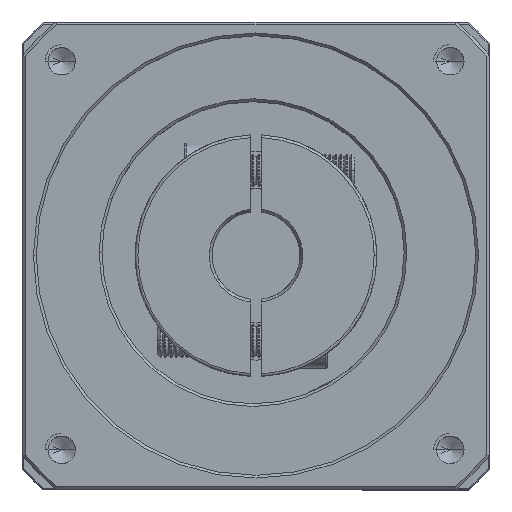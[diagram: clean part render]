
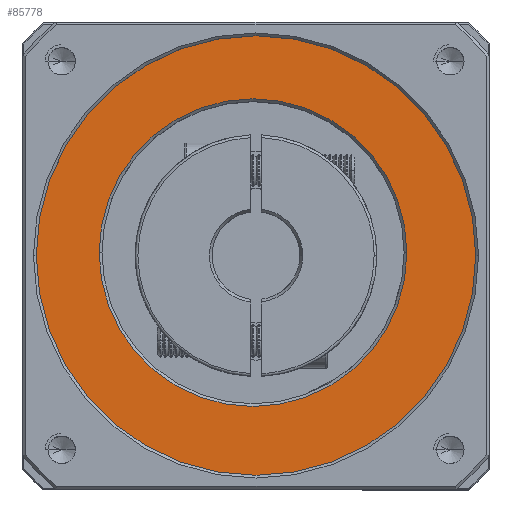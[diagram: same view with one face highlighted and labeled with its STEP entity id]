
A CAD part, top view. The second image highlights one B-rep face of the part: STEP entity #85778.
In plain terms, the highlighted planar face has unit normal (0, 0, 1).
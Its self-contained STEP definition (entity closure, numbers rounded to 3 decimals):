
#3611 = CIRCLE ( 'NONE', #44499, 28. ) ;
#4694 = EDGE_CURVE ( 'NONE', #88289, #106635, #80842, .T. ) ;
#5204 = CARTESIAN_POINT ( 'NONE',  ( -140.153, 28.633, 30.066 ) ) ;
#5452 = AXIS2_PLACEMENT_3D ( 'NONE', #78466, #78216, #77990 ) ;
#6963 = DIRECTION ( 'NONE',  ( 1., 0., 0. ) ) ;
#9393 = ORIENTED_EDGE ( 'NONE', *, *, #83788, .T. ) ;
#11723 = ORIENTED_EDGE ( 'NONE', *, *, #98960, .T. ) ;
#14689 = DIRECTION ( 'NONE',  ( 0., 0., -1. ) ) ;
#21274 = EDGE_CURVE ( 'NONE', #97432, #62066, #94600, .T. ) ;
#34205 = DIRECTION ( 'NONE',  ( 0., 0., -1. ) ) ;
#37681 = CARTESIAN_POINT ( 'NONE',  ( -100.153, 28.633, 30.066 ) ) ;
#44499 = AXIS2_PLACEMENT_3D ( 'NONE', #67211, #14689, #75856 ) ;
#46464 = DIRECTION ( 'NONE',  ( 1., 0., 0. ) ) ;
#49719 = FACE_OUTER_BOUND ( 'NONE', #109629, .T. ) ;
#50880 = CARTESIAN_POINT ( 'NONE',  ( -72.694, 29.168, 30.066 ) ) ;
#54936 = PLANE ( 'NONE',  #101510 ) ;
#59417 = DIRECTION ( 'NONE',  ( 0., 0., 1. ) ) ;
#62066 = VERTEX_POINT ( 'NONE', #68591 ) ;
#62865 = ORIENTED_EDGE ( 'NONE', *, *, #4694, .T. ) ;
#65144 = EDGE_LOOP ( 'NONE', ( #85936, #9393 ) ) ;
#67211 = CARTESIAN_POINT ( 'NONE',  ( -100.694, 29.168, 30.066 ) ) ;
#68591 = CARTESIAN_POINT ( 'NONE',  ( -128.694, 29.168, 30.066 ) ) ;
#73933 = AXIS2_PLACEMENT_3D ( 'NONE', #86414, #34205, #95012 ) ;
#75856 = DIRECTION ( 'NONE',  ( 1., 0., 0. ) ) ;
#77990 = DIRECTION ( 'NONE',  ( 1., 0., 0. ) ) ;
#78216 = DIRECTION ( 'NONE',  ( 0., 0., 1. ) ) ;
#78466 = CARTESIAN_POINT ( 'NONE',  ( -100.153, 28.633, 30.066 ) ) ;
#79259 = CARTESIAN_POINT ( 'NONE',  ( -60.153, 28.633, 30.066 ) ) ;
#80842 = CIRCLE ( 'NONE', #5452, 40. ) ;
#83788 = EDGE_CURVE ( 'NONE', #62066, #97432, #3611, .T. ) ;
#85778 = ADVANCED_FACE ( 'NONE', ( #49719, #93154 ), #54936, .T. ) ;
#85936 = ORIENTED_EDGE ( 'NONE', *, *, #21274, .T. ) ;
#86414 = CARTESIAN_POINT ( 'NONE',  ( -100.694, 29.168, 30.066 ) ) ;
#88289 = VERTEX_POINT ( 'NONE', #5204 ) ;
#93154 = FACE_BOUND ( 'NONE', #65144, .T. ) ;
#94600 = CIRCLE ( 'NONE', #73933, 28. ) ;
#95012 = DIRECTION ( 'NONE',  ( 1., 0., 0. ) ) ;
#97432 = VERTEX_POINT ( 'NONE', #50880 ) ;
#98262 = AXIS2_PLACEMENT_3D ( 'NONE', #111074, #59417, #6963 ) ;
#98455 = DIRECTION ( 'NONE',  ( 0., 0., 1. ) ) ;
#98960 = EDGE_CURVE ( 'NONE', #106635, #88289, #99596, .T. ) ;
#99596 = CIRCLE ( 'NONE', #98262, 40. ) ;
#101510 = AXIS2_PLACEMENT_3D ( 'NONE', #37681, #98455, #46464 ) ;
#106635 = VERTEX_POINT ( 'NONE', #79259 ) ;
#109629 = EDGE_LOOP ( 'NONE', ( #11723, #62865 ) ) ;
#111074 = CARTESIAN_POINT ( 'NONE',  ( -100.153, 28.633, 30.066 ) ) ;
